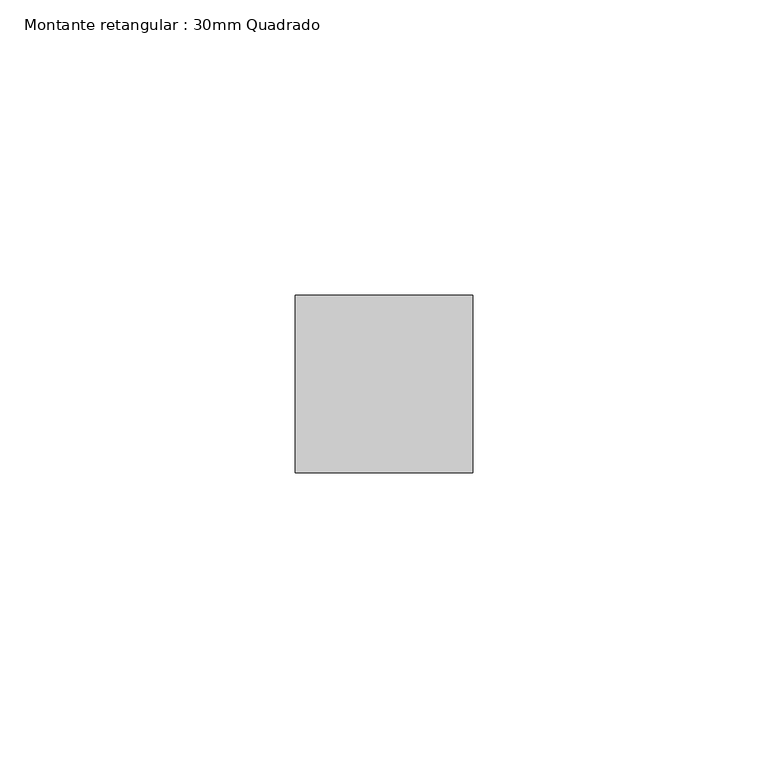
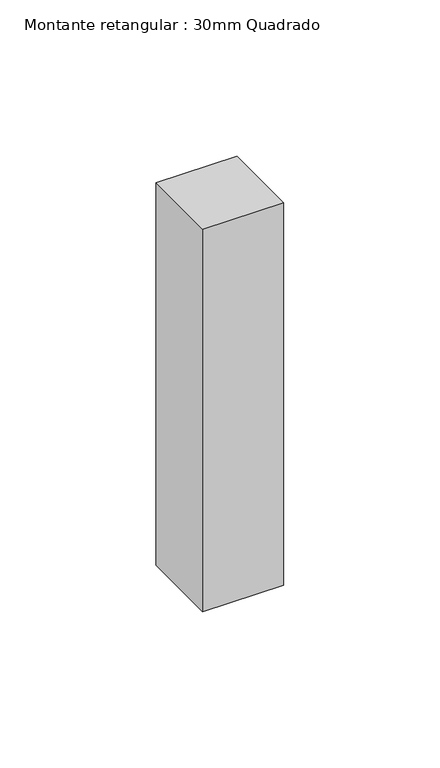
"""IFC4 building model written with IfcOpenShell, lengths in millimetres: member geometry, Montante retangular : 30mm Quadrado."""

from ifc_helpers import new_model, si_unit, frame, origin, place, context, project, spatial, polyline, outline, extrude, source, transform, mapped, element, save


def montante_retangular_30mm_quadrado_435085d7(model_context):
    return source(origin(), model_context, "Body", "SweptSolid", [
        extrude(outline(polyline([(0.0, 15.0), (0.0, -15.0), (-30.0, -15.0), (-30.0, 15.0), (0.0, 15.0)])), frame((0.0, 0.0, -149.6299477), z_axis=(0.0, 0.0, 1.0), x_axis=(1.0, 0.0, 0.0)), (0.0, 0.0, 1.0), 149.6299477),
    ])


if __name__ == "__main__":
    model = new_model("IFC4")
    model_context = context("Model", 3, world=origin())
    ifc_project = project(units=[si_unit("LENGTHUNIT", "METRE", prefix="MILLI")], contexts=[model_context])
    site = spatial("IfcSite", under=ifc_project)
    building = spatial("IfcBuilding", under=site)
    placement = place(None, origin())
    montante_retangular_30mm_quadrado_shape = montante_retangular_30mm_quadrado_435085d7(model_context)
    element("IfcMember", 1, ObjectType="Montante retangular : 30mm Quadrado", at=placement, inside=building, context=model_context, shape_type="MappedRepresentation", body=[
        mapped(montante_retangular_30mm_quadrado_shape, transform((0.0, 0.0, 0.0), x_axis=(1.0, 0.0, 0.0), y_axis=(0.0, 1.0, 0.0), z_axis=(0.0, 0.0, 1.0))),
    ])
    save(model, "model.ifc")
